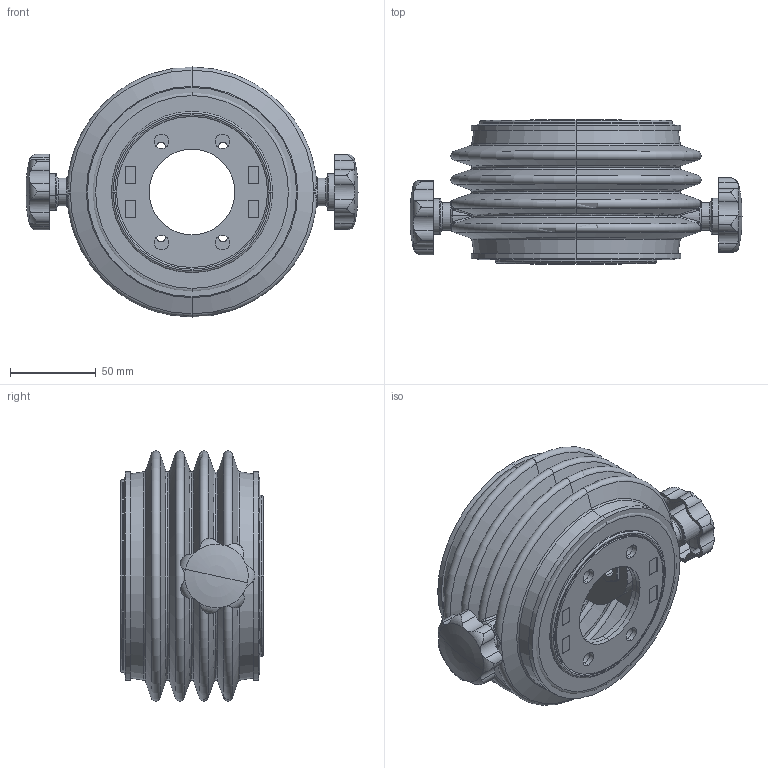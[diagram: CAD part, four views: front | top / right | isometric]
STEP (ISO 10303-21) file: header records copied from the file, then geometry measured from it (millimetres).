
FILE_DESCRIPTION (( 'STEP AP203' ), '1' );
FILE_NAME ('TP.060.3400.STEP', '2026-09-30T09:02:22', ( '' ), ( '' ), 'SwSTEP 2.0', 'SolidWorks 2015', '' );
FILE_SCHEMA (( 'CONFIG_CONTROL_DESIGN' ));
Length unit declared in the file: millimetre
Products named in the file (13): Üst_Üst_Parça_; Alt_Alt_Parça_0703_; Somun_m5_; Alt_Üst_Parça_0703_; Dýþ_Parça_; 07160-105x12_; Üst_Alt_Parça_; Distans__; 葭_Kaynakl齙Par鏰_; TP.060.3400; K鰎黭_0703_; boutet_knob_8102i_; Somun_m10_
Assembly tree (19 placements, depth 2):
  TP.060.3400
    Distans__  x2
    Üst_Alt_Parça_
    Üst_Üst_Parça_
    Dýþ_Parça_  x2
    葭_Kaynakl齙Par鏰_  x2
    07160-105x12_  x2
    Somun_m10_  x2
    Alt_Alt_Parça_0703_
    Alt_Üst_Parça_0703_
    K鰎黭_0703_
    Somun_m5_  x2
    boutet_knob_8102i_  x2
Bounding box: 193.6 x 83.85 x 145.81 mm (x, y, z)
Volume: 293702.6 mm3; surface area: 254065.3 mm2
Topology: 19 solids, 19 shells, 837 faces, 2102 edges, 1290 vertices
Faces by surface type: cylinder 330, plane 223, torus 128, cone 80, bspline 48, sphere 28
Entity records: 21635 total; most frequent: CARTESIAN_POINT 6177, DIRECTION 2980, ORIENTED_EDGE 2874, EDGE_CURVE 1437, AXIS2_PLACEMENT_3D 1188, VERTEX_POINT 889, EDGE_LOOP 682, CIRCLE 633
